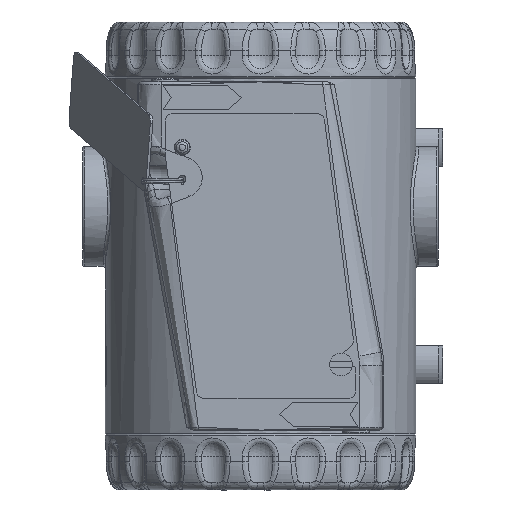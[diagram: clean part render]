
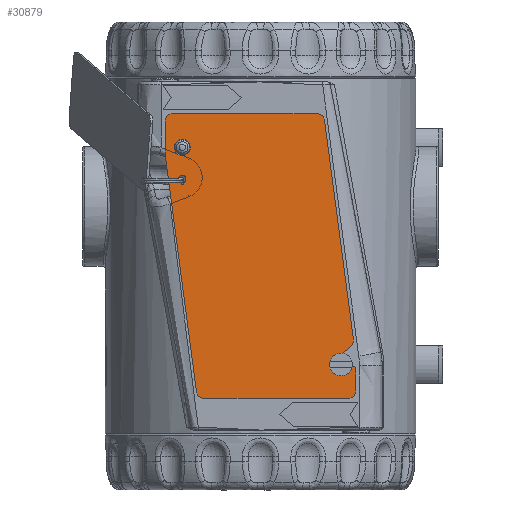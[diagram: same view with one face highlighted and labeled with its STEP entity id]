
A CAD part, left-side view. The second image highlights one B-rep face of the part: STEP entity #30879.
In plain terms, the highlighted planar face has unit normal (-1, 0, 0) as drawn and (0, 0, 1) by its records, which use the part's own axes.
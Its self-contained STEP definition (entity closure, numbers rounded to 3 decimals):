
#1010=PLANE('',#34683);
#1474=FACE_BOUND('',#8403,.T.);
#1475=FACE_BOUND('',#8404,.T.);
#2749=LINE('',#69278,#4159);
#2753=LINE('',#69290,#4163);
#2757=LINE('',#69302,#4167);
#2761=LINE('',#69314,#4171);
#2765=LINE('',#69326,#4175);
#2768=LINE('',#69332,#4178);
#2772=LINE('',#69344,#4182);
#2776=LINE('',#69355,#4186);
#4159=VECTOR('',#42460,10.);
#4163=VECTOR('',#42472,10.);
#4167=VECTOR('',#42484,10.);
#4171=VECTOR('',#42496,10.);
#4175=VECTOR('',#42508,10.);
#4178=VECTOR('',#42513,10.);
#4182=VECTOR('',#42525,10.);
#4186=VECTOR('',#42537,10.);
#6422=FACE_OUTER_BOUND('',#8402,.T.);
#8402=EDGE_LOOP('',(#27053,#27054,#27055,#27056,#27057,#27058,#27059,#27060,
#27061,#27062,#27063,#27064,#27065,#27066,#27067));
#8403=EDGE_LOOP('',(#27068));
#8404=EDGE_LOOP('',(#27069));
#10452=CIRCLE('',#34649,1.35);
#10454=CIRCLE('',#34652,1.);
#10455=CIRCLE('',#34654,2.);
#10457=CIRCLE('',#34658,2.);
#10459=CIRCLE('',#34662,1.);
#10461=CIRCLE('',#34666,2.);
#10463=CIRCLE('',#34670,2.);
#10465=CIRCLE('',#34675,2.);
#10467=CIRCLE('',#34679,2.);
#14215=VERTEX_POINT('',#69258);
#14217=VERTEX_POINT('',#69264);
#14218=VERTEX_POINT('',#69268);
#14219=VERTEX_POINT('',#69269);
#14222=VERTEX_POINT('',#69277);
#14224=VERTEX_POINT('',#69283);
#14226=VERTEX_POINT('',#69289);
#14228=VERTEX_POINT('',#69295);
#14230=VERTEX_POINT('',#69301);
#14232=VERTEX_POINT('',#69307);
#14234=VERTEX_POINT('',#69313);
#14236=VERTEX_POINT('',#69319);
#14238=VERTEX_POINT('',#69325);
#14240=VERTEX_POINT('',#69331);
#14242=VERTEX_POINT('',#69337);
#14244=VERTEX_POINT('',#69343);
#14246=VERTEX_POINT('',#69349);
#18556=EDGE_CURVE('',#14215,#14215,#10452,.T.);
#18559=EDGE_CURVE('',#14217,#14217,#10454,.T.);
#18560=EDGE_CURVE('',#14218,#14219,#10455,.T.);
#18564=EDGE_CURVE('',#14219,#14222,#2749,.T.);
#18567=EDGE_CURVE('',#14222,#14224,#10457,.T.);
#18570=EDGE_CURVE('',#14224,#14226,#2753,.T.);
#18573=EDGE_CURVE('',#14226,#14228,#10459,.T.);
#18576=EDGE_CURVE('',#14228,#14230,#2757,.T.);
#18579=EDGE_CURVE('',#14230,#14232,#10461,.T.);
#18582=EDGE_CURVE('',#14232,#14234,#2761,.T.);
#18585=EDGE_CURVE('',#14234,#14236,#10463,.T.);
#18588=EDGE_CURVE('',#14236,#14238,#2765,.T.);
#18591=EDGE_CURVE('',#14238,#14240,#2768,.T.);
#18594=EDGE_CURVE('',#14240,#14242,#10465,.T.);
#18597=EDGE_CURVE('',#14242,#14244,#2772,.T.);
#18600=EDGE_CURVE('',#14244,#14246,#10467,.T.);
#18603=EDGE_CURVE('',#14246,#14218,#2776,.T.);
#27053=ORIENTED_EDGE('',*,*,#18560,.F.);
#27054=ORIENTED_EDGE('',*,*,#18603,.F.);
#27055=ORIENTED_EDGE('',*,*,#18600,.F.);
#27056=ORIENTED_EDGE('',*,*,#18597,.F.);
#27057=ORIENTED_EDGE('',*,*,#18594,.F.);
#27058=ORIENTED_EDGE('',*,*,#18591,.F.);
#27059=ORIENTED_EDGE('',*,*,#18588,.F.);
#27060=ORIENTED_EDGE('',*,*,#18585,.F.);
#27061=ORIENTED_EDGE('',*,*,#18582,.F.);
#27062=ORIENTED_EDGE('',*,*,#18579,.F.);
#27063=ORIENTED_EDGE('',*,*,#18576,.F.);
#27064=ORIENTED_EDGE('',*,*,#18573,.F.);
#27065=ORIENTED_EDGE('',*,*,#18570,.F.);
#27066=ORIENTED_EDGE('',*,*,#18567,.F.);
#27067=ORIENTED_EDGE('',*,*,#18564,.F.);
#27068=ORIENTED_EDGE('',*,*,#18556,.T.);
#27069=ORIENTED_EDGE('',*,*,#18559,.T.);
#30879=ADVANCED_FACE('',(#6422,#1474,#1475),#1010,.T.);
#34649=AXIS2_PLACEMENT_3D('',#69260,#42441,#42442);
#34652=AXIS2_PLACEMENT_3D('',#69266,#42448,#42449);
#34654=AXIS2_PLACEMENT_3D('',#69270,#42452,#42453);
#34658=AXIS2_PLACEMENT_3D('',#69284,#42465,#42466);
#34662=AXIS2_PLACEMENT_3D('',#69296,#42477,#42478);
#34666=AXIS2_PLACEMENT_3D('',#69308,#42489,#42490);
#34670=AXIS2_PLACEMENT_3D('',#69320,#42501,#42502);
#34675=AXIS2_PLACEMENT_3D('',#69338,#42518,#42519);
#34679=AXIS2_PLACEMENT_3D('',#69350,#42530,#42531);
#34683=AXIS2_PLACEMENT_3D('',#69358,#42541,#42542);
#42441=DIRECTION('center_axis',(0.,0.,-1.));
#42442=DIRECTION('ref_axis',(-1.,0.,0.));
#42448=DIRECTION('center_axis',(0.,0.,-1.));
#42449=DIRECTION('ref_axis',(-1.,0.,0.));
#42452=DIRECTION('center_axis',(0.,0.,-1.));
#42453=DIRECTION('ref_axis',(0.766,0.643,0.));
#42460=DIRECTION('',(0.643,-0.766,0.));
#42465=DIRECTION('center_axis',(0.,0.,1.));
#42466=DIRECTION('ref_axis',(0.766,0.643,0.));
#42472=DIRECTION('',(-0.643,0.766,0.));
#42477=DIRECTION('center_axis',(0.,0.,-1.));
#42478=DIRECTION('ref_axis',(0.,1.,0.));
#42484=DIRECTION('',(1.,0.,0.));
#42489=DIRECTION('center_axis',(0.,0.,-1.));
#42490=DIRECTION('ref_axis',(1.,0.,0.));
#42496=DIRECTION('',(0.,-1.,0.));
#42501=DIRECTION('center_axis',(0.,0.,-1.));
#42502=DIRECTION('ref_axis',(0.131,-0.991,0.));
#42508=DIRECTION('',(-0.991,-0.131,0.));
#42513=DIRECTION('',(-1.,0.,0.));
#42518=DIRECTION('center_axis',(0.,0.,-1.));
#42519=DIRECTION('ref_axis',(-1.,0.,0.));
#42525=DIRECTION('',(0.,1.,0.));
#42530=DIRECTION('center_axis',(0.,0.,-1.));
#42531=DIRECTION('ref_axis',(-0.131,0.991,0.));
#42537=DIRECTION('',(0.991,0.131,0.));
#42541=DIRECTION('center_axis',(0.,0.,1.));
#42542=DIRECTION('ref_axis',(1.,0.,0.));
#69258=CARTESIAN_POINT('',(10.35,4.599,0.7));
#69260=CARTESIAN_POINT('Origin',(9.,4.599,0.7));
#69264=CARTESIAN_POINT('',(18.4,4.599,0.7));
#69266=CARTESIAN_POINT('Origin',(17.4,4.599,0.7));
#69268=CARTESIAN_POINT('',(60.389,50.327,0.7));
#69269=CARTESIAN_POINT('',(62.182,49.63,0.7));
#69270=CARTESIAN_POINT('Origin',(60.65,48.344,0.7));
#69277=CARTESIAN_POINT('',(65.468,45.714,0.7));
#69278=CARTESIAN_POINT('',(65.468,45.714,0.7));
#69283=CARTESIAN_POINT('',(68.532,48.286,0.7));
#69284=CARTESIAN_POINT('Origin',(67.,47.,0.7));
#69289=CARTESIAN_POINT('',(67.633,49.357,0.7));
#69290=CARTESIAN_POINT('',(67.633,49.357,0.7));
#69295=CARTESIAN_POINT('',(68.399,51.,0.7));
#69296=CARTESIAN_POINT('Origin',(68.399,50.,0.7));
#69301=CARTESIAN_POINT('',(74.,51.,0.7));
#69302=CARTESIAN_POINT('',(74.,51.,0.7));
#69307=CARTESIAN_POINT('',(76.,49.,0.7));
#69308=CARTESIAN_POINT('Origin',(74.,49.,0.7));
#69313=CARTESIAN_POINT('',(76.,10.377,0.7));
#69314=CARTESIAN_POINT('',(76.,10.377,0.7));
#69319=CARTESIAN_POINT('',(74.261,8.394,0.7));
#69320=CARTESIAN_POINT('Origin',(74.,10.377,0.7));
#69325=CARTESIAN_POINT('',(10.5,0.,0.7));
#69326=CARTESIAN_POINT('',(10.5,0.,0.7));
#69331=CARTESIAN_POINT('',(2.,0.,0.7));
#69332=CARTESIAN_POINT('',(2.,0.,0.7));
#69337=CARTESIAN_POINT('',(0.,2.,0.7));
#69338=CARTESIAN_POINT('Origin',(2.,2.,0.7));
#69343=CARTESIAN_POINT('',(0.,40.623,0.7));
#69344=CARTESIAN_POINT('',(0.,40.623,0.7));
#69349=CARTESIAN_POINT('',(1.739,42.606,0.7));
#69350=CARTESIAN_POINT('Origin',(2.,40.623,0.7));
#69355=CARTESIAN_POINT('',(60.389,50.327,0.7));
#69358=CARTESIAN_POINT('Origin',(39.077,26.228,0.7));
